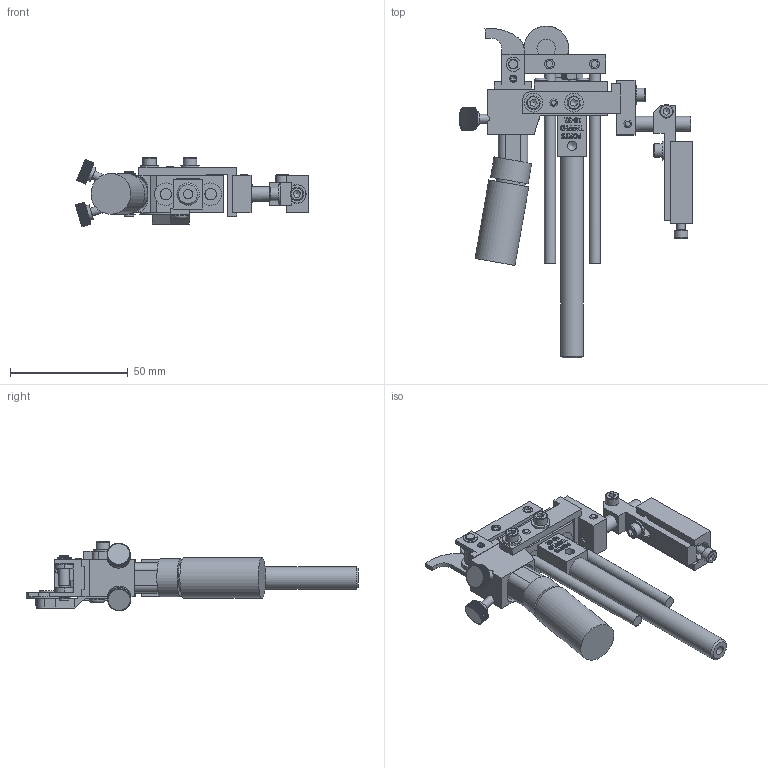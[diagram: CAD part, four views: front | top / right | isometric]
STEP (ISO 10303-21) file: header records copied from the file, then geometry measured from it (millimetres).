
FILE_DESCRIPTION((''),'2;1');
FILE_NAME('C:\Documents and Settings\Ron\My Documents\Inventor\Sprinter Drawing\Machines in Inventor\Model 22\Dot\3-sixth\Ext Str\E1\Brkt\Ret\Model 22 ES 1 3-16 dot ret w brkt.stp','2009-01-14T10:09:23',('Ron'),(''),'Autodesk Inventor 2008','Autodesk Inventor 2008','');
FILE_SCHEMA(('AUTOMOTIVE_DESIGN { 1 0 10303 214 1 1 1 1 }'));
Length unit declared in the file: inch
Products named in the file (1): Model 22 ES 1 3-16 dot ret w brkt
Bounding box: 99.17 x 141.24 x 29.55 mm (x, y, z)
Volume: 59282.7 mm3; surface area: 34899 mm2
Topology: 34 solids, 34 shells, 4744 faces, 13161 edges, 8735 vertices
Faces by surface type: plane 2899, bspline 1291, cylinder 482, cone 58, torus 14
Full cylindrical faces by diameter (mm): 2.845 x3, 2.946 x2, 3.175 x5, 3.505 x7, 3.556 x2, 3.658 x1, 3.876 x1, 3.962 x9, 4.064 x1, 4.166 x3, 4.648 x2, 4.699 x1, 4.75 x1, 4.763 x2, 4.788 x1, 5.41 x2, 5.556 x1, 5.74 x6, 6.096 x1, 6.325 x2, 6.35 x3, 6.477 x1, 6.655 x1, 7.925 x4, 7.938 x1, 8.128 x1, 9.462 x1, 9.525 x1, 10.922 x1, 11.938 x1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
Entity records: 165757 total; most frequent: CARTESIAN_POINT 49049, ORIENTED_EDGE 25750, DIRECTION 18417, EDGE_CURVE 12875, VECTOR 9083, LINE 9083, VERTEX_POINT 8628, EDGE_LOOP 5263
